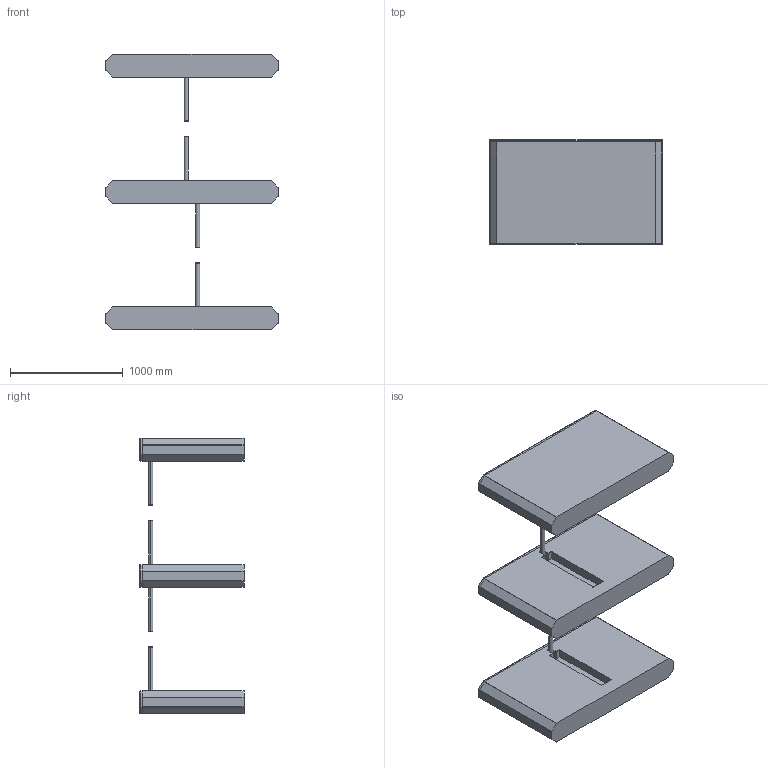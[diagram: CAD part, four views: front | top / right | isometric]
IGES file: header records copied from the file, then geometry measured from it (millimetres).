
Start section: SolidWorks IGES file using analytic representation for surfaces
Global section: file name: C:\Users\LAPTOP\Documents\FABTRON\TURNSTILE LAYOUTS\IGS FILES\SPACE SAVER LANES FACETED ENDS.IGS; native system: SolidWorks 2013; preprocessor: SolidWorks 2013; author: LAPTOP; date: 160409.121337; units: inch
Bounding box: 1524 x 920.75 x 2438.4 mm (x, y, z)
Surface area: 13519247.3 mm2 (no closed solid volume)
Topology: 0 solids, 0 shells, 257 faces, 2776 edges, 2776 vertices
Faces by surface type: bspline 143, revolution 114
